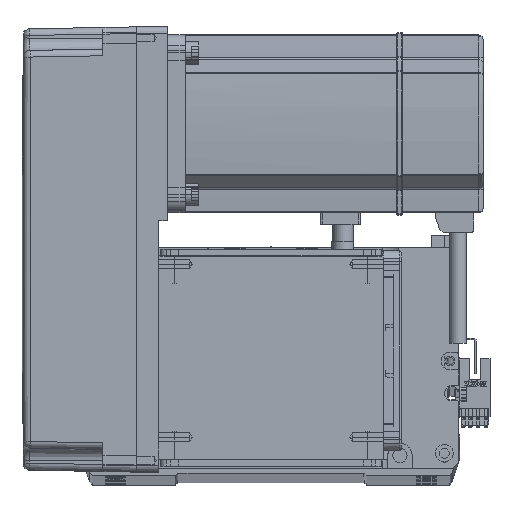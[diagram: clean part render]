
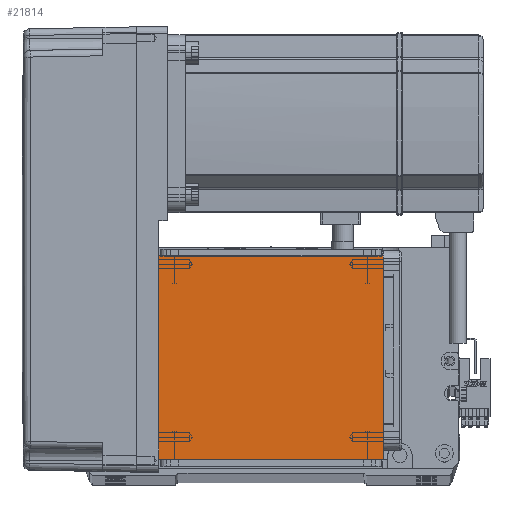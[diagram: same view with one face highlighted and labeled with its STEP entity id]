
A CAD part, top view. The second image highlights one B-rep face of the part: STEP entity #21814.
In plain terms, the highlighted planar face has unit normal (0, 0, 1).
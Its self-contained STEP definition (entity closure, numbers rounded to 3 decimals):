
#1127 = DIRECTION ( 'NONE',  ( 1., 0., 0. ) ) ;
#1877 = ORIENTED_EDGE ( 'NONE', *, *, #51762, .F. ) ;
#2025 = LINE ( 'NONE', #29142, #33410 ) ;
#4702 = CARTESIAN_POINT ( 'NONE',  ( 50.5, 20., 115. ) ) ;
#9195 = AXIS2_PLACEMENT_3D ( 'NONE', #15225, #55535, #1127 ) ;
#9890 = PLANE ( 'NONE',  #9195 ) ;
#9899 = CARTESIAN_POINT ( 'NONE',  ( -50.5, 122., 115. ) ) ;
#12363 = CARTESIAN_POINT ( 'NONE',  ( 50.5, 122., 115. ) ) ;
#12531 = VERTEX_POINT ( 'NONE', #41993 ) ;
#13523 = DIRECTION ( 'NONE',  ( -1., 0., 0. ) ) ;
#14586 = DIRECTION ( 'NONE',  ( 1., 0., 0. ) ) ;
#15225 = CARTESIAN_POINT ( 'NONE',  ( 0., 0., 115. ) ) ;
#15642 = LINE ( 'NONE', #9899, #43996 ) ;
#16401 = VECTOR ( 'NONE', #46697, 1000. ) ;
#19634 = EDGE_CURVE ( 'NONE', #12531, #54545, #15642, .T. ) ;
#21814 = ADVANCED_FACE ( 'NONE', ( #57553 ), #9890, .T. ) ;
#22049 = LINE ( 'NONE', #29948, #53494 ) ;
#24685 = DIRECTION ( 'NONE',  ( 0., -1., 0. ) ) ;
#28619 = VERTEX_POINT ( 'NONE', #59253 ) ;
#29142 = CARTESIAN_POINT ( 'NONE',  ( -70.004, 111.5, 115. ) ) ;
#29948 = CARTESIAN_POINT ( 'NONE',  ( -70.004, 20., 115. ) ) ;
#31525 = CARTESIAN_POINT ( 'NONE',  ( -50.5, 20., 115. ) ) ;
#32660 = EDGE_LOOP ( 'NONE', ( #1877, #39442, #51786, #61134 ) ) ;
#33410 = VECTOR ( 'NONE', #14586, 1000. ) ;
#39442 = ORIENTED_EDGE ( 'NONE', *, *, #19634, .T. ) ;
#41993 = CARTESIAN_POINT ( 'NONE',  ( -50.5, 111.5, 115. ) ) ;
#42444 = LINE ( 'NONE', #12363, #16401 ) ;
#43040 = VERTEX_POINT ( 'NONE', #4702 ) ;
#43996 = VECTOR ( 'NONE', #24685, 1000. ) ;
#46697 = DIRECTION ( 'NONE',  ( 0., 1., 0. ) ) ;
#49308 = EDGE_CURVE ( 'NONE', #43040, #54545, #22049, .T. ) ;
#51762 = EDGE_CURVE ( 'NONE', #12531, #28619, #2025, .T. ) ;
#51786 = ORIENTED_EDGE ( 'NONE', *, *, #49308, .F. ) ;
#53494 = VECTOR ( 'NONE', #13523, 1000. ) ;
#54545 = VERTEX_POINT ( 'NONE', #31525 ) ;
#55535 = DIRECTION ( 'NONE',  ( 0., 0., 1. ) ) ;
#57553 = FACE_OUTER_BOUND ( 'NONE', #32660, .T. ) ;
#59253 = CARTESIAN_POINT ( 'NONE',  ( 50.5, 111.5, 115. ) ) ;
#61134 = ORIENTED_EDGE ( 'NONE', *, *, #61235, .T. ) ;
#61235 = EDGE_CURVE ( 'NONE', #43040, #28619, #42444, .T. ) ;
